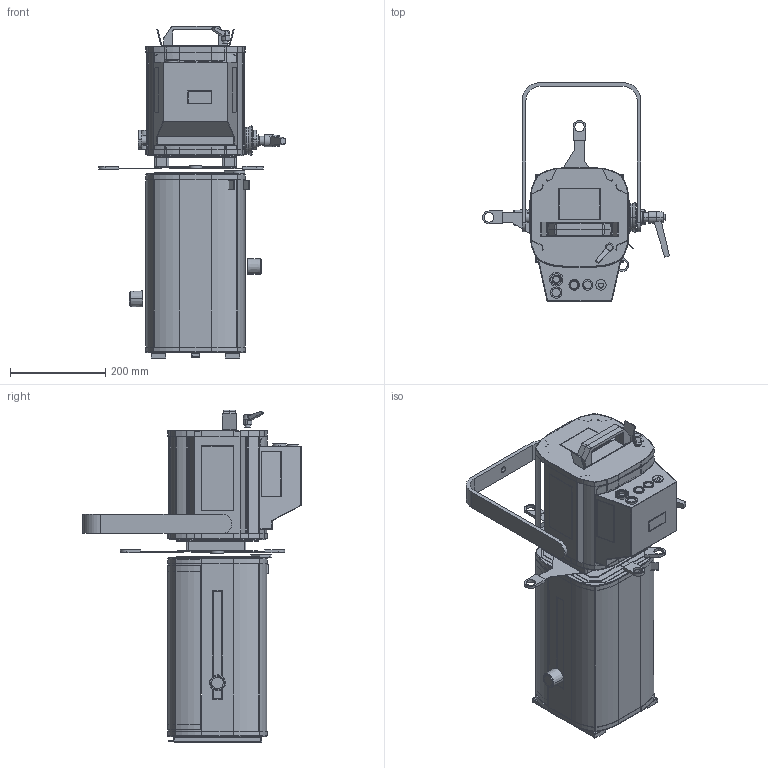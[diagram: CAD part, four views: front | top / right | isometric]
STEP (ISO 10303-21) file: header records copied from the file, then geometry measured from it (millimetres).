
FILE_DESCRIPTION (( 'STEP AP203' ), '1' );
FILE_NAME ('654.STEP', '2020-06-19T09:26:13', ( '' ), ( '' ), 'SwSTEP 2.0', 'SolidWorks 2019', '' );
FILE_SCHEMA (( 'CONFIG_CONTROL_DESIGN' ));
Length unit declared in the file: millimetre
Products named in the file (1): 654
Bounding box: 391.34 x 458.85 x 695.6 mm (x, y, z)
Volume: 1444364.5 mm3; surface area: 1969119.4 mm2
Topology: 60 solids, 60 shells, 1083 faces, 2497 edges, 1562 vertices
Faces by surface type: plane 679, cylinder 333, torus 38, cone 29, bspline 4
Entity records: 30520 total; most frequent: CARTESIAN_POINT 5465, DIRECTION 5349, ORIENTED_EDGE 4994, EDGE_CURVE 2497, AXIS2_PLACEMENT_3D 1826, VECTOR 1697, LINE 1697, VERTEX_POINT 1562
